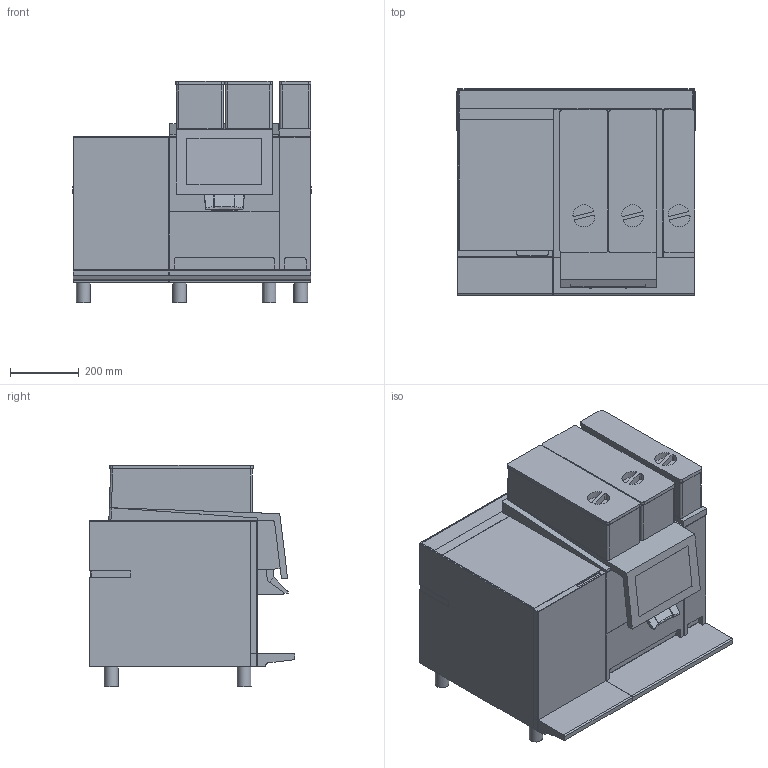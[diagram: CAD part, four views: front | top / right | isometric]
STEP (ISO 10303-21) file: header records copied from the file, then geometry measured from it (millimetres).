
FILE_DESCRIPTION(/* description */ ('Unknown'),/* implementation_level */ '2;1');
FILE_NAME(/* name */ 'HM_BW4-CTM-P-RL',/* time_stamp */ '2026-08-14T11:16:44+02:00',/* author */ ('Unknown'),/* organization */ ('Unknown'),/* preprocessor_version */ 'ST-DEVELOPER v20',/* originating_system */ 'Solid Edge',/* authorisation */ 'Unknown');
FILE_SCHEMA (('AUTOMOTIVE_DESIGN {1 0 10303 214 3 1 1}'));
Length unit declared in the file: millimetre
Products named in the file (1): HM_BW4-CTM-P-RL
Bounding box: 693.3 x 599.39 x 645.65 mm (x, y, z)
Volume: 174248940.7 mm3; surface area: 2682572.5 mm2
Topology: 1 solids, 1 shells, 347 faces, 948 edges, 610 vertices
Faces by surface type: plane 247, cylinder 96, sphere 4
Full cylindrical faces by diameter (mm): 40 x8
Entity records: 13292 total; most frequent: CARTESIAN_POINT 1900, ORIENTED_EDGE 1864, DIRECTION 1830, EDGE_CURVE 932, LINE 722, VECTOR 722, VERTEX_POINT 606, AXIS2_PLACEMENT_3D 554
